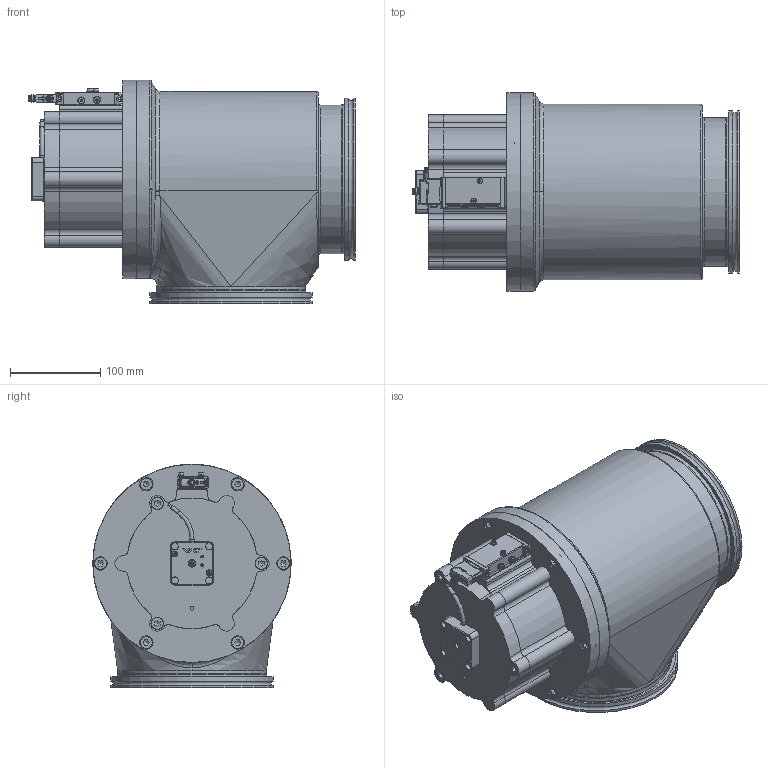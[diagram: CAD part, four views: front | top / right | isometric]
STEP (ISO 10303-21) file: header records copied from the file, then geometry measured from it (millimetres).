
FILE_DESCRIPTION(/* description */ (''),/* implementation_level */ '2;1');
FILE_NAME(/* name */ '1628962726_203.stp',/* time_stamp */ '2013-08-06T11:19:42+02:00',/* author */ (''),/* organization */ (''),/* preprocessor_version */ 'ST-DEVELOPER v11',/* originating_system */ 'SIEMENS PLM Software NX 7.5',/* authorisation */ '');
FILE_SCHEMA (('AP203_CONFIGURATION_CONTROLLED_3D_DESIGN_OF_MECHANICAL_PARTS_AND_ASSEMBLIES_MIM_LF'));
Length unit declared in the file: millimetre
Products named in the file (19): 568561; 571495; n-6134-404.1; n-6005-429.1; 500093_18342ID; n-6121-026.2; 546207_18351ID; 421306; 233359; 236204_1.1; 546253; 546505; 228777; 476060; 573596_MODEL; 500278_MODEL; 546204_MODEL; 421285; 577186
Assembly tree (29 placements, depth 3):
  577186
    476060
    228777  x9
    421285
      236204_1.1  x2
      233359
      421306
    546505
    546204_MODEL
      546207_18351ID
      n-6121-026.2
    546253
    500278_MODEL
      500093_18342ID
    573596_MODEL
      n-6005-429.1  x2
      n-6134-404.1  x2
      571495
      568561
Bounding box: 362.65 x 220 x 248 mm (x, y, z)
Volume: 2835402.7 mm3; surface area: 653867 mm2
Topology: 47 solids, 54 shells, 1549 faces, 3818 edges, 2458 vertices
Faces by surface type: plane 814, cylinder 467, cone 147, torus 58, bspline 50, extrusion 8, sphere 5
Full cylindrical faces by diameter (mm): 1 x2, 1.4 x4, 2.46 x2, 2.5 x7, 2.6 x2, 3 x10, 3.2 x4, 3.8 x1, 3.85 x1, 4.2 x2, 4.5 x3, 5.5 x2, 5.6 x2, 5.8 x1, 6 x2, 6.2 x2, 6.5 x2, 6.66 x9, 6.7 x9, 6.8 x12, 6.9 x1, 7.2 x1, 7.4 x3, 8 x22, 8.1 x1, 8.4 x1, 8.566 x1, 9 x12, 10.2 x1, 13 x9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
Entity records: 50029 total; most frequent: CARTESIAN_POINT 11219, DIRECTION 6661, ORIENTED_EDGE 6226, EDGE_CURVE 3113, AXIS2_PLACEMENT_3D 2509, VERTEX_POINT 2134, EDGE_LOOP 1762, VECTOR 1643
